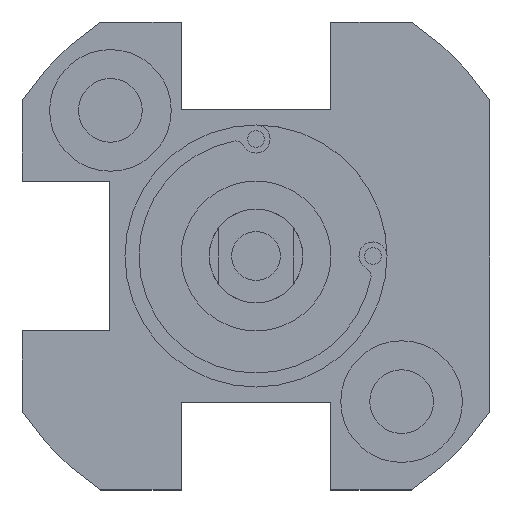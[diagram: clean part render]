
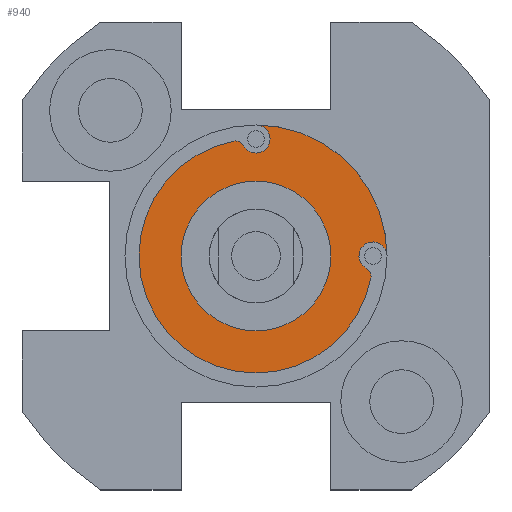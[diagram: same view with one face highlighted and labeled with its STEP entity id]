
A CAD part, front view. The second image highlights one B-rep face of the part: STEP entity #940.
In plain terms, the highlighted planar face has unit normal (0, -1, 0) as drawn and (0, 1, 0) by its records, which use the part's own axes.
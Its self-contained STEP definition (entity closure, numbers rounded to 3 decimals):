
#55 = DIRECTION ( 'NONE',  ( 0., 1., 0. ) ) ;
#59 = ORIENTED_EDGE ( 'NONE', *, *, #2338, .F. ) ;
#71 = CARTESIAN_POINT ( 'NONE',  ( 5.645, -2., 1.094 ) ) ;
#153 = VERTEX_POINT ( 'NONE', #1520 ) ;
#169 = EDGE_CURVE ( 'NONE', #417, #407, #2481, .T. ) ;
#215 = DIRECTION ( 'NONE',  ( 0., 1., 0. ) ) ;
#238 = CARTESIAN_POINT ( 'NONE',  ( -1.094, -2., -5.645 ) ) ;
#261 = CARTESIAN_POINT ( 'NONE',  ( 0., -2., 0. ) ) ;
#306 = CARTESIAN_POINT ( 'NONE',  ( 0., -2., 4. ) ) ;
#347 = CIRCLE ( 'NONE', #1251, 0.75 ) ;
#407 = VERTEX_POINT ( 'NONE', #1585 ) ;
#417 = VERTEX_POINT ( 'NONE', #1395 ) ;
#431 = DIRECTION ( 'NONE',  ( 0., 1., 0. ) ) ;
#447 = EDGE_LOOP ( 'NONE', ( #804, #2267 ) ) ;
#457 = CARTESIAN_POINT ( 'NONE',  ( 0., -2., 0. ) ) ;
#462 = DIRECTION ( 'NONE',  ( 0., 0., 1. ) ) ;
#494 = AXIS2_PLACEMENT_3D ( 'NONE', #801, #215, #2479 ) ;
#502 = CARTESIAN_POINT ( 'NONE',  ( 5.887, -2., 0.656 ) ) ;
#503 = ORIENTED_EDGE ( 'NONE', *, *, #169, .T. ) ;
#576 = ORIENTED_EDGE ( 'NONE', *, *, #2358, .F. ) ;
#578 = ORIENTED_EDGE ( 'NONE', *, *, #1580, .T. ) ;
#579 = AXIS2_PLACEMENT_3D ( 'NONE', #457, #2385, #1771 ) ;
#615 = VERTEX_POINT ( 'NONE', #888 ) ;
#657 = VERTEX_POINT ( 'NONE', #2462 ) ;
#712 = EDGE_LOOP ( 'NONE', ( #2352, #1903, #578, #720, #503, #576, #59, #2273 ) ) ;
#720 = ORIENTED_EDGE ( 'NONE', *, *, #1529, .F. ) ;
#801 = CARTESIAN_POINT ( 'NONE',  ( 0., -2., 0. ) ) ;
#804 = ORIENTED_EDGE ( 'NONE', *, *, #2325, .F. ) ;
#814 = VERTEX_POINT ( 'NONE', #1933 ) ;
#851 = CIRCLE ( 'NONE', #1074, 0.5 ) ;
#852 = PLANE ( 'NONE',  #1686 ) ;
#854 = DIRECTION ( 'NONE',  ( 0., 0., 1. ) ) ;
#888 = CARTESIAN_POINT ( 'NONE',  ( 0., -2., 6.25 ) ) ;
#922 = FACE_BOUND ( 'NONE', #447, .T. ) ;
#940 = ADVANCED_FACE ( 'NONE', ( #2289, #922 ), #852, .T. ) ;
#958 = EDGE_CURVE ( 'NONE', #657, #615, #1157, .T. ) ;
#1001 = CIRCLE ( 'NONE', #1376, 4. ) ;
#1019 = DIRECTION ( 'NONE',  ( 0., 1., 0. ) ) ;
#1025 = VERTEX_POINT ( 'NONE', #502 ) ;
#1046 = CARTESIAN_POINT ( 'NONE',  ( 6.25, -2., 0. ) ) ;
#1074 = AXIS2_PLACEMENT_3D ( 'NONE', #238, #1956, #2367 ) ;
#1146 = CARTESIAN_POINT ( 'NONE',  ( 0., -2., -4. ) ) ;
#1157 = CIRCLE ( 'NONE', #1801, 6.25 ) ;
#1195 = CARTESIAN_POINT ( 'NONE',  ( 0., -2., -6.25 ) ) ;
#1204 = DIRECTION ( 'NONE',  ( 0., 0., 1. ) ) ;
#1251 = AXIS2_PLACEMENT_3D ( 'NONE', #1046, #55, #2364 ) ;
#1357 = VERTEX_POINT ( 'NONE', #2093 ) ;
#1376 = AXIS2_PLACEMENT_3D ( 'NONE', #261, #1398, #854 ) ;
#1392 = CARTESIAN_POINT ( 'NONE',  ( 0., -2., -6.25 ) ) ;
#1395 = CARTESIAN_POINT ( 'NONE',  ( 7., -2., 0. ) ) ;
#1398 = DIRECTION ( 'NONE',  ( 0., 1., 0. ) ) ;
#1445 = CARTESIAN_POINT ( 'NONE',  ( 0., -2., 0. ) ) ;
#1520 = CARTESIAN_POINT ( 'NONE',  ( -0.656, -2., -5.887 ) ) ;
#1529 = EDGE_CURVE ( 'NONE', #417, #1025, #347, .T. ) ;
#1531 = EDGE_CURVE ( 'NONE', #2198, #1748, #1001, .T. ) ;
#1537 = CARTESIAN_POINT ( 'NONE',  ( 0., -2., 0. ) ) ;
#1580 = EDGE_CURVE ( 'NONE', #1357, #1025, #2230, .T. ) ;
#1585 = CARTESIAN_POINT ( 'NONE',  ( 0., -2., -7. ) ) ;
#1591 = EDGE_CURVE ( 'NONE', #615, #1357, #2413, .T. ) ;
#1597 = CARTESIAN_POINT ( 'NONE',  ( 0., -2., 0. ) ) ;
#1630 = AXIS2_PLACEMENT_3D ( 'NONE', #71, #2160, #462 ) ;
#1648 = DIRECTION ( 'NONE',  ( 0., 1., 0. ) ) ;
#1686 = AXIS2_PLACEMENT_3D ( 'NONE', #1537, #1894, #2070 ) ;
#1745 = AXIS2_PLACEMENT_3D ( 'NONE', #1597, #1019, #1791 ) ;
#1748 = VERTEX_POINT ( 'NONE', #306 ) ;
#1749 = CIRCLE ( 'NONE', #1868, 0.75 ) ;
#1771 = DIRECTION ( 'NONE',  ( 0., 0., 1. ) ) ;
#1791 = DIRECTION ( 'NONE',  ( 0., 0., 1. ) ) ;
#1798 = DIRECTION ( 'NONE',  ( 0., 0., 1. ) ) ;
#1801 = AXIS2_PLACEMENT_3D ( 'NONE', #1445, #1648, #1798 ) ;
#1868 = AXIS2_PLACEMENT_3D ( 'NONE', #1392, #431, #1204 ) ;
#1894 = DIRECTION ( 'NONE',  ( 0., 1., 0. ) ) ;
#1903 = ORIENTED_EDGE ( 'NONE', *, *, #1591, .T. ) ;
#1919 = AXIS2_PLACEMENT_3D ( 'NONE', #1195, #1981, #2332 ) ;
#1933 = CARTESIAN_POINT ( 'NONE',  ( 0., -2., -5.5 ) ) ;
#1956 = DIRECTION ( 'NONE',  ( 0., 1., 0. ) ) ;
#1981 = DIRECTION ( 'NONE',  ( 0., 1., 0. ) ) ;
#2070 = DIRECTION ( 'NONE',  ( 0., 0., 1. ) ) ;
#2093 = CARTESIAN_POINT ( 'NONE',  ( 6.136, -2., 1.189 ) ) ;
#2160 = DIRECTION ( 'NONE',  ( 0., 1., 0. ) ) ;
#2198 = VERTEX_POINT ( 'NONE', #1146 ) ;
#2230 = CIRCLE ( 'NONE', #1630, 0.5 ) ;
#2267 = ORIENTED_EDGE ( 'NONE', *, *, #1531, .F. ) ;
#2273 = ORIENTED_EDGE ( 'NONE', *, *, #2377, .T. ) ;
#2283 = CIRCLE ( 'NONE', #1745, 4. ) ;
#2289 = FACE_OUTER_BOUND ( 'NONE', #712, .T. ) ;
#2308 = CIRCLE ( 'NONE', #1919, 0.75 ) ;
#2325 = EDGE_CURVE ( 'NONE', #1748, #2198, #2283, .T. ) ;
#2332 = DIRECTION ( 'NONE',  ( 0., 0., 1. ) ) ;
#2338 = EDGE_CURVE ( 'NONE', #153, #814, #1749, .T. ) ;
#2352 = ORIENTED_EDGE ( 'NONE', *, *, #958, .T. ) ;
#2358 = EDGE_CURVE ( 'NONE', #814, #407, #2308, .T. ) ;
#2364 = DIRECTION ( 'NONE',  ( 0., 0., 1. ) ) ;
#2367 = DIRECTION ( 'NONE',  ( 0., 0., 1. ) ) ;
#2377 = EDGE_CURVE ( 'NONE', #153, #657, #851, .T. ) ;
#2385 = DIRECTION ( 'NONE',  ( 0., 1., 0. ) ) ;
#2413 = CIRCLE ( 'NONE', #579, 6.25 ) ;
#2462 = CARTESIAN_POINT ( 'NONE',  ( -1.189, -2., -6.136 ) ) ;
#2479 = DIRECTION ( 'NONE',  ( 0., 0., 1. ) ) ;
#2481 = CIRCLE ( 'NONE', #494, 7. ) ;
